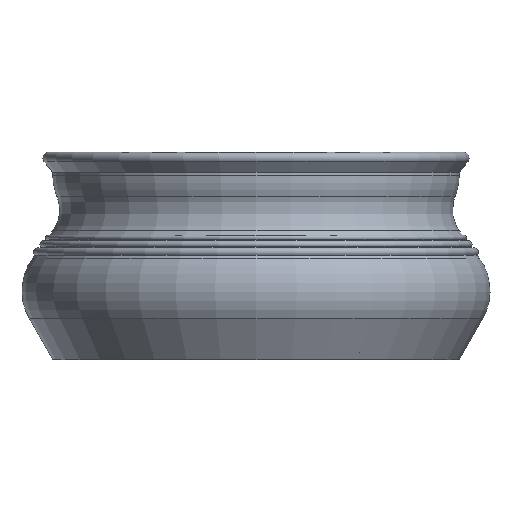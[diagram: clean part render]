
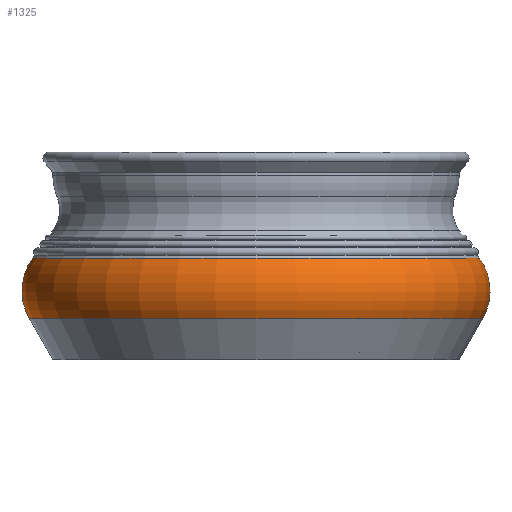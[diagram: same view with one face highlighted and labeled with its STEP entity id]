
A CAD part, front view. The second image highlights one B-rep face of the part: STEP entity #1325.
In plain terms, the highlighted toroidal (fillet/blend) face has major radius 150.496 mm and minor radius 46.864 mm.
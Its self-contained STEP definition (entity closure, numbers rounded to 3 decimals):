
#22=TOROIDAL_SURFACE('',#1505,150.496,46.864);
#166=FACE_OUTER_BOUND('',#284,.T.);
#284=EDGE_LOOP('',(#1208,#1209,#1210,#1211));
#526=CIRCLE('',#1467,191.201);
#549=CIRCLE('',#1506,188.261);
#550=CIRCLE('',#1507,46.864);
#653=VERTEX_POINT('',#2240);
#669=VERTEX_POINT('',#2303);
#818=EDGE_CURVE('',#653,#653,#526,.T.);
#849=EDGE_CURVE('',#669,#669,#549,.T.);
#850=EDGE_CURVE('',#669,#653,#550,.T.);
#1208=ORIENTED_EDGE('',*,*,#849,.F.);
#1209=ORIENTED_EDGE('',*,*,#850,.T.);
#1210=ORIENTED_EDGE('',*,*,#818,.T.);
#1211=ORIENTED_EDGE('',*,*,#850,.F.);
#1325=ADVANCED_FACE('',(#166),#22,.T.);
#1467=AXIS2_PLACEMENT_3D('',#2241,#1837,#1838);
#1505=AXIS2_PLACEMENT_3D('',#2302,#1921,#1922);
#1506=AXIS2_PLACEMENT_3D('',#2304,#1923,#1924);
#1507=AXIS2_PLACEMENT_3D('',#2305,#1925,#1926);
#1837=DIRECTION('center_axis',(0.,0.,1.));
#1838=DIRECTION('ref_axis',(1.,0.,0.));
#1921=DIRECTION('center_axis',(0.,0.,1.));
#1922=DIRECTION('ref_axis',(1.,0.,0.));
#1923=DIRECTION('center_axis',(0.,0.,1.));
#1924=DIRECTION('ref_axis',(1.,0.,0.));
#1925=DIRECTION('center_axis',(0.,-1.,0.));
#1926=DIRECTION('ref_axis',(-1.,0.,0.));
#2240=CARTESIAN_POINT('',(-191.201,0.,34.776));
#2241=CARTESIAN_POINT('Origin',(0.,0.,34.776));
#2302=CARTESIAN_POINT('Origin',(0.,0.,58.));
#2303=CARTESIAN_POINT('',(-188.261,0.,85.75));
#2304=CARTESIAN_POINT('Origin',(0.,0.,85.75));
#2305=CARTESIAN_POINT('Origin',(-150.496,0.,
58.));
